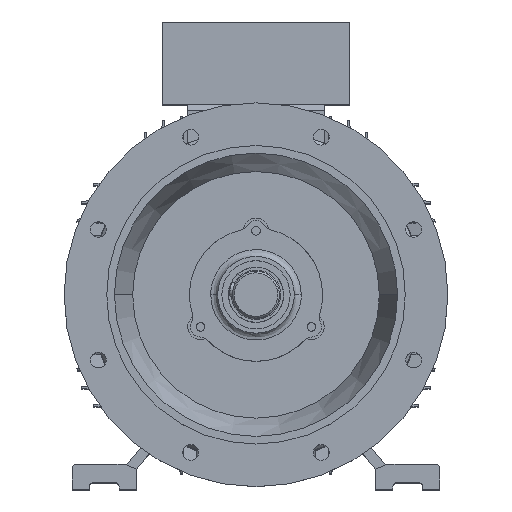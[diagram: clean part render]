
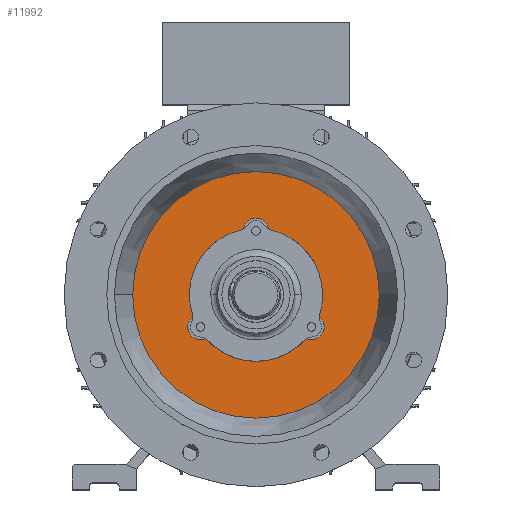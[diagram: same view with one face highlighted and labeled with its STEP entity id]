
A CAD part, top view. The second image highlights one B-rep face of the part: STEP entity #11992.
In plain terms, the highlighted planar face has unit normal (0, 0, 1) as drawn and (-1, 0, 0) by its records, which use the part's own axes.
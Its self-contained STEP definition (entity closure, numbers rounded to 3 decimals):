
#1722 = CIRCLE ( 'NONE', #17975, 78. ) ;
#1742 = CIRCLE ( 'NONE', #17978, 144.526 ) ;
#1805 = CIRCLE ( 'NONE', #17994, 15. ) ;
#1981 = CIRCLE ( 'NONE', #18029, 144.526 ) ;
#1983 = CIRCLE ( 'NONE', #18052, 78. ) ;
#2017 = CIRCLE ( 'NONE', #18038, 78. ) ;
#2056 = CIRCLE ( 'NONE', #18097, 78. ) ;
#2071 = CIRCLE ( 'NONE', #18100, 15. ) ;
#2091 = CIRCLE ( 'NONE', #18080, 15. ) ;
#2141 = CIRCLE ( 'NONE', #18127, 15. ) ;
#3467 = CARTESIAN_POINT ( 'NONE',  ( 59., 0., -144.526 ) ) ;
#3505 = CARTESIAN_POINT ( 'NONE',  ( 59., 0., 78. ) ) ;
#3525 = CARTESIAN_POINT ( 'NONE',  ( 59., -25.36, 73.762 ) ) ;
#3527 = CARTESIAN_POINT ( 'NONE',  ( 59., 0., 144.526 ) ) ;
#3532 = CARTESIAN_POINT ( 'NONE',  ( 59., -51.2, -58.844 ) ) ;
#3552 = CARTESIAN_POINT ( 'NONE',  ( 59., -37.5, -79.952 ) ) ;
#4459 = AXIS2_PLACEMENT_3D ( 'NONE', #22523, #22427, #22429 ) ;
#7473 = EDGE_LOOP ( 'NONE', ( #10698, #10716, #10745, #10694, #10747, #10695, #10692, #10704 ) ) ;
#7480 = EDGE_LOOP ( 'NONE', ( #10700, #10743 ) ) ;
#7716 = VERTEX_POINT ( 'NONE', #3467 ) ;
#7734 = VERTEX_POINT ( 'NONE', #3527 ) ;
#7751 = VERTEX_POINT ( 'NONE', #3505 ) ;
#7759 = VERTEX_POINT ( 'NONE', #3525 ) ;
#7760 = VERTEX_POINT ( 'NONE', #3532 ) ;
#7791 = VERTEX_POINT ( 'NONE', #3552 ) ;
#10692 = ORIENTED_EDGE ( 'NONE', *, *, #13525, .F. ) ;
#10694 = ORIENTED_EDGE ( 'NONE', *, *, #13627, .F. ) ;
#10695 = ORIENTED_EDGE ( 'NONE', *, *, #13622, .F. ) ;
#10698 = ORIENTED_EDGE ( 'NONE', *, *, #13577, .F. ) ;
#10700 = ORIENTED_EDGE ( 'NONE', *, *, #13538, .T. ) ;
#10704 = ORIENTED_EDGE ( 'NONE', *, *, #13370, .F. ) ;
#10716 = ORIENTED_EDGE ( 'NONE', *, *, #13524, .F. ) ;
#10743 = ORIENTED_EDGE ( 'NONE', *, *, #13364, .T. ) ;
#10745 = ORIENTED_EDGE ( 'NONE', *, *, #13389, .F. ) ;
#10747 = ORIENTED_EDGE ( 'NONE', *, *, #13566, .F. ) ;
#11992 = ADVANCED_FACE ( 'NONE', ( #25525, #25544 ), #22424, .F. ) ;
#13364 = EDGE_CURVE ( 'NONE', #7716, #7734, #1742, .T. ) ;
#13370 = EDGE_CURVE ( 'NONE', #7759, #7751, #1722, .T. ) ;
#13389 = EDGE_CURVE ( 'NONE', #7791, #7760, #1805, .T. ) ;
#13524 = EDGE_CURVE ( 'NONE', #7760, #15759, #1983, .T. ) ;
#13525 = EDGE_CURVE ( 'NONE', #7751, #15780, #2017, .T. ) ;
#13538 = EDGE_CURVE ( 'NONE', #7734, #7716, #1981, .T. ) ;
#13566 = EDGE_CURVE ( 'NONE', #15831, #15737, #2056, .T. ) ;
#13577 = EDGE_CURVE ( 'NONE', #15759, #7759, #2071, .T. ) ;
#13622 = EDGE_CURVE ( 'NONE', #15780, #15831, #2141, .T. ) ;
#13627 = EDGE_CURVE ( 'NONE', #15737, #7791, #2091, .T. ) ;
#14723 = DIRECTION ( 'NONE',  ( 0., 0., -1. ) ) ;
#14757 = CARTESIAN_POINT ( 'NONE',  ( 59., -37.5, -64.952 ) ) ;
#14775 = DIRECTION ( 'NONE',  ( -1., 0., 0. ) ) ;
#15737 = VERTEX_POINT ( 'NONE', #29244 ) ;
#15759 = VERTEX_POINT ( 'NONE', #29233 ) ;
#15780 = VERTEX_POINT ( 'NONE', #29176 ) ;
#15831 = VERTEX_POINT ( 'NONE', #29223 ) ;
#16748 = CARTESIAN_POINT ( 'NONE',  ( 59., 0., 0. ) ) ;
#16750 = CARTESIAN_POINT ( 'NONE',  ( 59., 0., 0. ) ) ;
#16794 = DIRECTION ( 'NONE',  ( 0., 0., 1. ) ) ;
#16808 = DIRECTION ( 'NONE',  ( -1., 0., 0. ) ) ;
#16811 = DIRECTION ( 'NONE',  ( 0., 0., 1. ) ) ;
#16856 = DIRECTION ( 'NONE',  ( -1., 0., 0. ) ) ;
#16890 = DIRECTION ( 'NONE',  ( 0., 0., 1. ) ) ;
#16901 = CARTESIAN_POINT ( 'NONE',  ( 59., 0., 0. ) ) ;
#16966 = DIRECTION ( 'NONE',  ( -1., 0., 0. ) ) ;
#17188 = CARTESIAN_POINT ( 'NONE',  ( 59., 0., 0. ) ) ;
#17205 = CARTESIAN_POINT ( 'NONE',  ( 59., 0., 0. ) ) ;
#17222 = DIRECTION ( 'NONE',  ( 0., 0., 1. ) ) ;
#17268 = DIRECTION ( 'NONE',  ( 0., 0., 1. ) ) ;
#17283 = DIRECTION ( 'NONE',  ( -1., 0., 0. ) ) ;
#17285 = DIRECTION ( 'NONE',  ( -1., 0., 0. ) ) ;
#17975 = AXIS2_PLACEMENT_3D ( 'NONE', #17188, #17283, #17222 ) ;
#17978 = AXIS2_PLACEMENT_3D ( 'NONE', #17205, #17285, #17268 ) ;
#17994 = AXIS2_PLACEMENT_3D ( 'NONE', #14757, #14775, #14723 ) ;
#18029 = AXIS2_PLACEMENT_3D ( 'NONE', #16901, #16966, #16890 ) ;
#18038 = AXIS2_PLACEMENT_3D ( 'NONE', #16748, #16856, #16811 ) ;
#18052 = AXIS2_PLACEMENT_3D ( 'NONE', #16750, #16808, #16794 ) ;
#18080 = AXIS2_PLACEMENT_3D ( 'NONE', #24889, #24896, #24851 ) ;
#18097 = AXIS2_PLACEMENT_3D ( 'NONE', #24516, #24518, #24521 ) ;
#18100 = AXIS2_PLACEMENT_3D ( 'NONE', #24568, #24559, #24556 ) ;
#18127 = AXIS2_PLACEMENT_3D ( 'NONE', #24817, #24818, #24848 ) ;
#22424 = PLANE ( 'NONE',  #4459 ) ;
#22427 = DIRECTION ( 'NONE',  ( 1., 0., 0. ) ) ;
#22429 = DIRECTION ( 'NONE',  ( 0., 0., -1. ) ) ;
#22523 = CARTESIAN_POINT ( 'NONE',  ( 59., 144.526, 0. ) ) ;
#24516 = CARTESIAN_POINT ( 'NONE',  ( 59., 0., 0. ) ) ;
#24518 = DIRECTION ( 'NONE',  ( -1., 0., 0. ) ) ;
#24521 = DIRECTION ( 'NONE',  ( 0., 0., 1. ) ) ;
#24556 = DIRECTION ( 'NONE',  ( 0., 0., -1. ) ) ;
#24559 = DIRECTION ( 'NONE',  ( -1., 0., 0. ) ) ;
#24568 = CARTESIAN_POINT ( 'NONE',  ( 59., -37.5, 64.952 ) ) ;
#24817 = CARTESIAN_POINT ( 'NONE',  ( 59., 75., 0. ) ) ;
#24818 = DIRECTION ( 'NONE',  ( -1., 0., 0. ) ) ;
#24848 = DIRECTION ( 'NONE',  ( 0., 0., -1. ) ) ;
#24851 = DIRECTION ( 'NONE',  ( 0., 0., -1. ) ) ;
#24889 = CARTESIAN_POINT ( 'NONE',  ( 59., -37.5, -64.952 ) ) ;
#24896 = DIRECTION ( 'NONE',  ( -1., 0., 0. ) ) ;
#25525 = FACE_OUTER_BOUND ( 'NONE', #7480, .T. ) ;
#25544 = FACE_BOUND ( 'NONE', #7473, .T. ) ;
#29176 = CARTESIAN_POINT ( 'NONE',  ( 59., 76.56, 14.919 ) ) ;
#29223 = CARTESIAN_POINT ( 'NONE',  ( 59., 76.56, -14.919 ) ) ;
#29233 = CARTESIAN_POINT ( 'NONE',  ( 59., -51.2, 58.844 ) ) ;
#29244 = CARTESIAN_POINT ( 'NONE',  ( 59., -25.36, -73.762 ) ) ;
